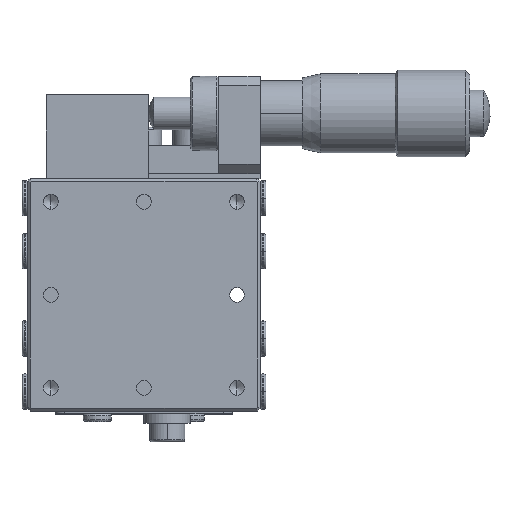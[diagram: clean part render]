
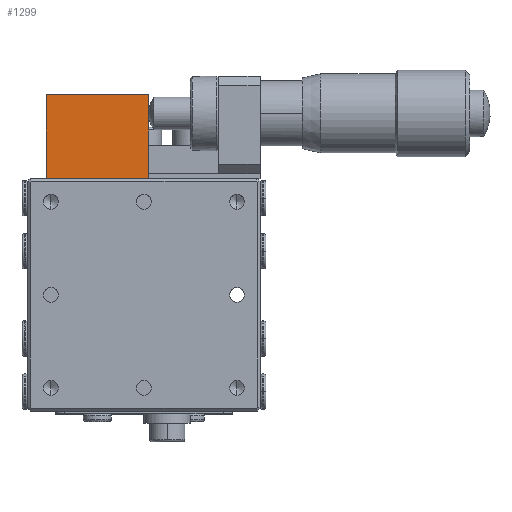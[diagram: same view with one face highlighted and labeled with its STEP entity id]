
A CAD part, top view. The second image highlights one B-rep face of the part: STEP entity #1299.
In plain terms, the highlighted planar face has unit normal (0, 0, 1) as drawn and (0, 1, 0) by its records, which use the part's own axes.
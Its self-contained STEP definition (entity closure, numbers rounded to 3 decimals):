
#1299 = ADVANCED_FACE ( 'NONE', ( #10798 ), #14375, .F. ) ;
#3387 = CARTESIAN_POINT ( 'NONE',  ( 25.989, 32.621, 57.5 ) ) ;
#3715 = CARTESIAN_POINT ( 'NONE',  ( 14.989, 32.621, 57.5 ) ) ;
#4181 = CARTESIAN_POINT ( 'NONE',  ( 25.989, 32.621, 66.5 ) ) ;
#4234 = CARTESIAN_POINT ( 'NONE',  ( 14.989, 32.621, 66.5 ) ) ;
#5276 = ORIENTED_EDGE ( 'NONE', *, *, #14916, .F. ) ;
#5277 = ORIENTED_EDGE ( 'NONE', *, *, #15089, .T. ) ;
#5278 = ORIENTED_EDGE ( 'NONE', *, *, #15077, .F. ) ;
#5279 = ORIENTED_EDGE ( 'NONE', *, *, #14870, .F. ) ;
#10798 = FACE_OUTER_BOUND ( 'NONE', #16440, .T. ) ;
#11431 = VERTEX_POINT ( 'NONE', #4234 ) ;
#11470 = VERTEX_POINT ( 'NONE', #4181 ) ;
#11790 = VERTEX_POINT ( 'NONE', #3715 ) ;
#11856 = VERTEX_POINT ( 'NONE', #3387 ) ;
#13629 = AXIS2_PLACEMENT_3D ( 'NONE', #14378, #14373, #14372 ) ;
#14372 = DIRECTION ( 'NONE',  ( 0., 0., -1. ) ) ;
#14373 = DIRECTION ( 'NONE',  ( 0., -1., 0. ) ) ;
#14375 = PLANE ( 'NONE',  #13629 ) ;
#14378 = CARTESIAN_POINT ( 'NONE',  ( 14.989, 32.621, 66.5 ) ) ;
#14870 = EDGE_CURVE ( 'NONE', #11470, #11431, #15614, .T. ) ;
#14916 = EDGE_CURVE ( 'NONE', #11431, #11790, #15646, .T. ) ;
#15077 = EDGE_CURVE ( 'NONE', #11856, #11470, #15767, .T. ) ;
#15089 = EDGE_CURVE ( 'NONE', #11856, #11790, #15779, .T. ) ;
#15614 = LINE ( 'NONE', #17321, #15618 ) ;
#15618 = VECTOR ( 'NONE', #17315, 1000. ) ;
#15646 = LINE ( 'NONE', #17203, #15647 ) ;
#15647 = VECTOR ( 'NONE', #17202, 1000. ) ;
#15767 = LINE ( 'NONE', #16983, #15770 ) ;
#15770 = VECTOR ( 'NONE', #16982, 1000. ) ;
#15779 = LINE ( 'NONE', #16964, #15782 ) ;
#15782 = VECTOR ( 'NONE', #16961, 1000. ) ;
#16440 = EDGE_LOOP ( 'NONE', ( #5279, #5278, #5277, #5276 ) ) ;
#16961 = DIRECTION ( 'NONE',  ( -1., 0., 0. ) ) ;
#16964 = CARTESIAN_POINT ( 'NONE',  ( 15.489, 32.621, 57.5 ) ) ;
#16982 = DIRECTION ( 'NONE',  ( 0., 0., 1. ) ) ;
#16983 = CARTESIAN_POINT ( 'NONE',  ( 25.989, 32.621, 62. ) ) ;
#17202 = DIRECTION ( 'NONE',  ( 0., 0., -1. ) ) ;
#17203 = CARTESIAN_POINT ( 'NONE',  ( 14.989, 32.621, 62. ) ) ;
#17315 = DIRECTION ( 'NONE',  ( -1., 0., 0. ) ) ;
#17321 = CARTESIAN_POINT ( 'NONE',  ( 20.489, 32.621, 66.5 ) ) ;
